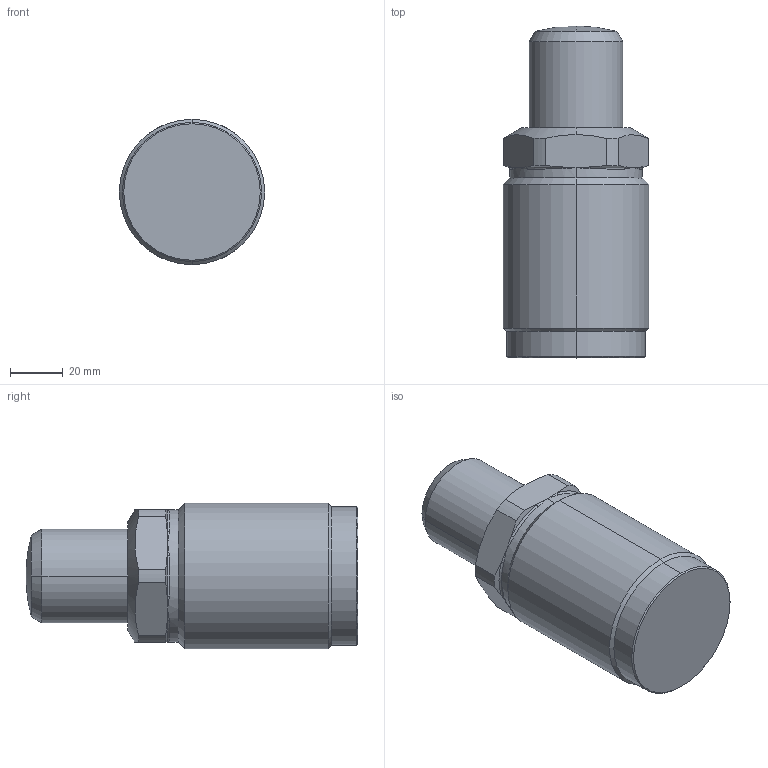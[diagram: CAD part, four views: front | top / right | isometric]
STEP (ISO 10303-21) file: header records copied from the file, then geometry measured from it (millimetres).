
FILE_DESCRIPTION((' '),'2;1');
FILE_NAME( 'CMC25-32R.x_t.stp', '2024-08-27T13:58:40', (' '), ('--- Datakit www.datakit.com---'), ' Datakit CrossCadWare V2024.1 Dec 21 2023', 'Mastercam 2025', ' ');
FILE_SCHEMA(('AUTOMOTIVE_DESIGN { 1 0 10303 214 1 1 1 1 }'));
Length unit declared in the file: millimetre
Products named in the file (1): CMC25-32R
Bounding box: 55 x 125.5 x 55 mm (x, y, z)
Volume: 202117.6 mm3; surface area: 28445.3 mm2
Topology: 2 solids, 2 shells, 62 faces, 155 edges, 84 vertices
Faces by surface type: cylinder 16, cone 16, bspline 12, plane 10, torus 6, sphere 2
Entity records: 3813 total; most frequent: CARTESIAN_POINT 2452, ORIENTED_EDGE 282, DIRECTION 264, EDGE_CURVE 141, AXIS2_PLACEMENT_3D 116, VERTEX_POINT 84, CIRCLE 65, EDGE_LOOP 63
